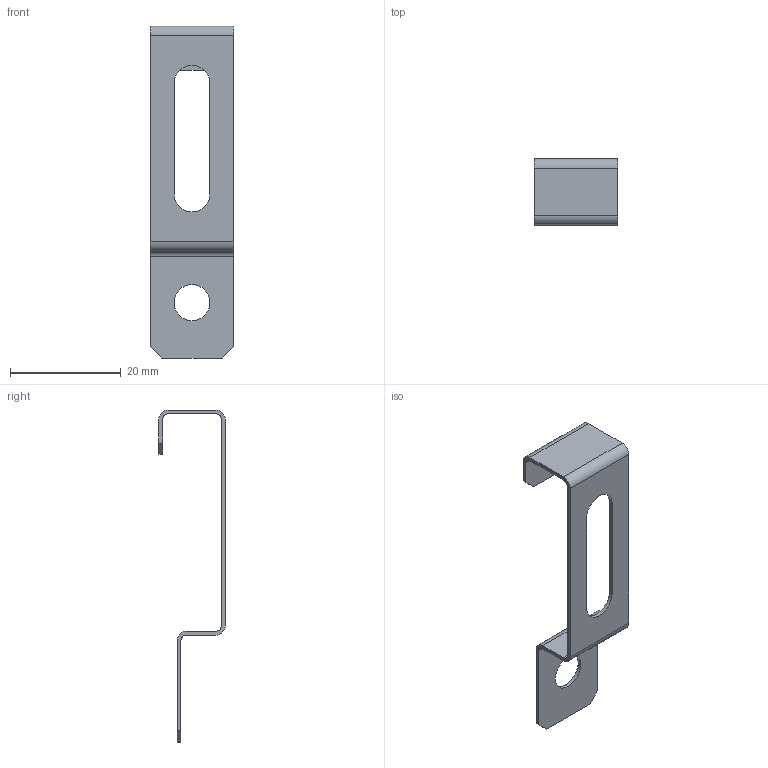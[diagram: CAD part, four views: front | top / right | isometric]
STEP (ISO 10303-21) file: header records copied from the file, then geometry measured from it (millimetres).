
FILE_DESCRIPTION (( 'STEP AP203' ), '1' );
FILE_NAME ('3D - Haltebügel.STEP', '2019-08-12T06:24:59', ( '' ), ( '' ), 'SwSTEP 2.0', 'SolidWorks 2013', '' );
FILE_SCHEMA (( 'CONFIG_CONTROL_DESIGN' ));
Length unit declared in the file: millimetre
Products named in the file (1): 3D - Haltebügel
Bounding box: 15 x 12 x 60 mm (x, y, z)
Volume: 741.9 mm3; surface area: 2312 mm2
Topology: 1 solids, 1 shells, 33 faces, 93 edges, 62 vertices
Faces by surface type: plane 20, cylinder 13
Entity records: 1160 total; most frequent: CARTESIAN_POINT 189, DIRECTION 187, ORIENTED_EDGE 186, EDGE_CURVE 93, LINE 67, VECTOR 67, VERTEX_POINT 62, AXIS2_PLACEMENT_3D 60
